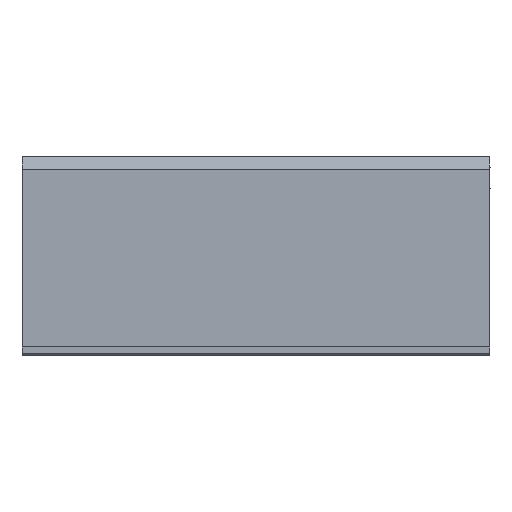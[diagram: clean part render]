
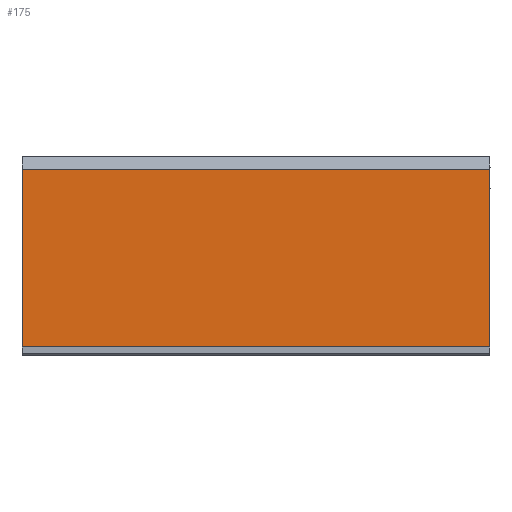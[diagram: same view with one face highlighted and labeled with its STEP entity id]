
A CAD part, front view. The second image highlights one B-rep face of the part: STEP entity #175.
In plain terms, the highlighted planar face has unit normal (0, -1, 0).
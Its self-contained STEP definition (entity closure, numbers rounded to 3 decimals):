
#108=PLANE('',#2721);
#175=ADVANCED_FACE('',(#310),#108,.T.);
#310=FACE_OUTER_BOUND('',#449,.F.);
#449=EDGE_LOOP('',(#759,#760,#761,#762));
#759=ORIENTED_EDGE('',*,*,#1872,.T.);
#760=ORIENTED_EDGE('',*,*,#2071,.F.);
#761=ORIENTED_EDGE('',*,*,#1930,.F.);
#762=ORIENTED_EDGE('',*,*,#1860,.T.);
#1463=LINE('',#3867,#1657);
#1473=LINE('',#3879,#1667);
#1506=LINE('',#4055,#1700);
#1571=LINE('',#4448,#1765);
#1657=VECTOR('',#2879,54.);
#1667=VECTOR('',#2893,20.5);
#1700=VECTOR('',#2944,20.5);
#1765=VECTOR('',#3093,54.);
#1860=EDGE_CURVE('',#2556,#2541,#1463,.T.);
#1872=EDGE_CURVE('',#2541,#2531,#1473,.T.);
#1930=EDGE_CURVE('',#2556,#2479,#1506,.T.);
#2071=EDGE_CURVE('',#2479,#2531,#1571,.T.);
#2479=VERTEX_POINT('',#3726);
#2531=VERTEX_POINT('',#3778);
#2541=VERTEX_POINT('',#3788);
#2556=VERTEX_POINT('',#3803);
#2721=AXIS2_PLACEMENT_3D('',#4572,#3286,#3287);
#2879=DIRECTION('',(1.,0.,0.));
#2893=DIRECTION('',(0.,0.,-1.));
#2944=DIRECTION('',(0.,0.,-1.));
#3093=DIRECTION('',(1.,0.,0.));
#3286=DIRECTION('',(0.,-1.,0.));
#3287=DIRECTION('',(0.,0.,-1.));
#3726=CARTESIAN_POINT('',(131.25,-18.5,-40.92));
#3778=CARTESIAN_POINT('',(185.25,-18.5,-40.92));
#3788=CARTESIAN_POINT('',(185.25,-18.5,-20.42));
#3803=CARTESIAN_POINT('',(131.25,-18.5,-20.42));
#3867=CARTESIAN_POINT('',(131.25,-18.5,-20.42));
#3879=CARTESIAN_POINT('',(185.25,-18.5,-20.42));
#4055=CARTESIAN_POINT('',(131.25,-18.5,-20.42));
#4448=CARTESIAN_POINT('',(131.25,-18.5,-40.92));
#4572=CARTESIAN_POINT('',(130.71,-18.5,-19.88));
